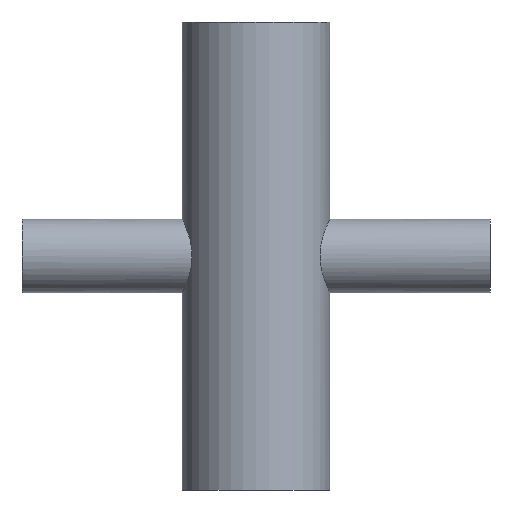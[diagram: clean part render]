
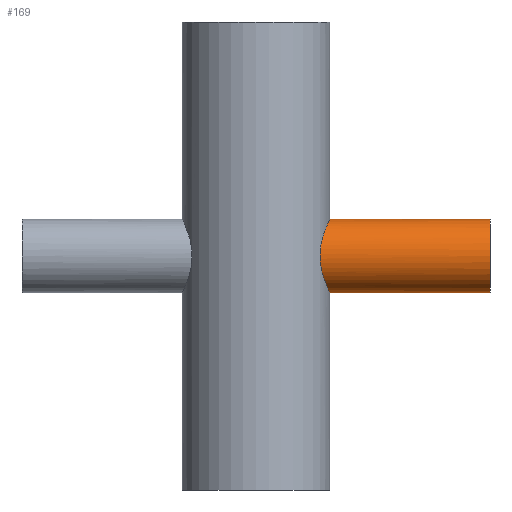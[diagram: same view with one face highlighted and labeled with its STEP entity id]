
A CAD part, front view. The second image highlights one B-rep face of the part: STEP entity #169.
In plain terms, the highlighted cylindrical face has radius 9.525 mm (diameter 19.05 mm), a partial arc.
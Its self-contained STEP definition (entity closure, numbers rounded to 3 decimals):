
#3 = CARTESIAN_POINT ( 'NONE',  ( 18.885, -2.517, 9.192 ) ) ;
#7 = VERTEX_POINT ( 'NONE', #650 ) ;
#8 = CARTESIAN_POINT ( 'NONE',  ( 18.796, -3.116, 9.006 ) ) ;
#10 = CARTESIAN_POINT ( 'NONE',  ( 18.924, -2.208, 9.271 ) ) ;
#28 = CARTESIAN_POINT ( 'NONE',  ( -60.325, 0., 9.525 ) ) ;
#31 = CARTESIAN_POINT ( 'NONE',  ( 16.506, -9.51, 0.621 ) ) ;
#33 = LINE ( 'NONE', #508, #654 ) ;
#36 = EDGE_LOOP ( 'NONE', ( #329, #400, #382, #247 ) ) ;
#39 = DIRECTION ( 'NONE',  ( 1., 0., 0. ) ) ;
#43 = B_SPLINE_CURVE_WITH_KNOTS ( 'NONE', 3,
 ( #791, #795, #779, #769, #766, #761, #758, #721, #711, #708, #698, #694, #692, #657, #651, #643, #619, #586, #581, #577, #570, #559, #270, #152, #133, #268, #31, #94, #350, #204, #236, #219, #266, #231, #212, #264, #138, #205, #228, #471, #545, #303, #282, #130, #8, #3, #10, #68, #483, #79 ),
 .UNSPECIFIED., .F., .F.,
 ( 4, 2, 2, 2, 2, 2, 2, 2, 2, 2, 2, 2, 2, 2, 2, 2, 2, 2, 2, 2, 2, 2, 2, 2, 4 ),
 ( 0.03, 0.032, 0.033, 0.034, 0.036, 0.037, 0.038, 0.039, 0.04, 0.042, 0.043, 0.044, 0.045, 0.046, 0.047, 0.048, 0.049, 0.051, 0.052, 0.053, 0.055, 0.057, 0.058, 0.059, 0.061 ),
 .UNSPECIFIED. ) ;
#68 = CARTESIAN_POINT ( 'NONE',  ( 19.018, -1.273, 9.461 ) ) ;
#79 = CARTESIAN_POINT ( 'NONE',  ( 19.05, 0., 9.525 ) ) ;
#94 = CARTESIAN_POINT ( 'NONE',  ( 16.542, -9.447, 1.254 ) ) ;
#128 = LINE ( 'NONE', #28, #284 ) ;
#130 = CARTESIAN_POINT ( 'NONE',  ( 18.745, -3.408, 8.9 ) ) ;
#133 = CARTESIAN_POINT ( 'NONE',  ( 16.498, -9.524, -0.65 ) ) ;
#138 = CARTESIAN_POINT ( 'NONE',  ( 17.489, -7.556, 5.808 ) ) ;
#146 = DIRECTION ( 'NONE',  ( 0., 0., -1. ) ) ;
#152 = CARTESIAN_POINT ( 'NONE',  ( 16.536, -9.46, -1.275 ) ) ;
#169 = ADVANCED_FACE ( 'NONE', ( #563 ), #235, .T. ) ;
#179 = CARTESIAN_POINT ( 'NONE',  ( -60.325, 0., 0. ) ) ;
#204 = CARTESIAN_POINT ( 'NONE',  ( 16.639, -9.277, 2.183 ) ) ;
#205 = CARTESIAN_POINT ( 'NONE',  ( 17.652, -7.165, 6.284 ) ) ;
#212 = CARTESIAN_POINT ( 'NONE',  ( 17.173, -8.255, 4.791 ) ) ;
#219 = CARTESIAN_POINT ( 'NONE',  ( 16.781, -9.017, 3.087 ) ) ;
#228 = CARTESIAN_POINT ( 'NONE',  ( 17.735, -6.959, 6.51 ) ) ;
#231 = CARTESIAN_POINT ( 'NONE',  ( 17.027, -8.548, 4.249 ) ) ;
#235 = CYLINDRICAL_SURFACE ( 'NONE', #517, 9.525 ) ;
#236 = CARTESIAN_POINT ( 'NONE',  ( 16.682, -9.2, 2.487 ) ) ;
#247 = ORIENTED_EDGE ( 'NONE', *, *, #326, .T. ) ;
#264 = CARTESIAN_POINT ( 'NONE',  ( 17.407, -7.741, 5.559 ) ) ;
#266 = CARTESIAN_POINT ( 'NONE',  ( 16.839, -8.909, 3.384 ) ) ;
#268 = CARTESIAN_POINT ( 'NONE',  ( 16.497, -9.526, 0.3 ) ) ;
#270 = CARTESIAN_POINT ( 'NONE',  ( 16.641, -9.273, -2.2 ) ) ;
#282 = CARTESIAN_POINT ( 'NONE',  ( 18.576, -4.265, 8.539 ) ) ;
#284 = VECTOR ( 'NONE', #39, 1000. ) ;
#303 = CARTESIAN_POINT ( 'NONE',  ( 18.44, -4.811, 8.244 ) ) ;
#326 = EDGE_CURVE ( 'NONE', #7, #785, #876, .T. ) ;
#329 = ORIENTED_EDGE ( 'NONE', *, *, #575, .F. ) ;
#335 = EDGE_CURVE ( 'NONE', #887, #7, #33, .T. ) ;
#350 = CARTESIAN_POINT ( 'NONE',  ( 16.569, -9.401, 1.567 ) ) ;
#381 = DIRECTION ( 'NONE',  ( 1., 0., 0. ) ) ;
#382 = ORIENTED_EDGE ( 'NONE', *, *, #335, .T. ) ;
#400 = ORIENTED_EDGE ( 'NONE', *, *, #432, .F. ) ;
#403 = DIRECTION ( 'NONE',  ( -1., 0., 0. ) ) ;
#410 = DIRECTION ( 'NONE',  ( 1., 0., 0. ) ) ;
#432 = EDGE_CURVE ( 'NONE', #887, #488, #43, .T. ) ;
#471 = CARTESIAN_POINT ( 'NONE',  ( 17.98, -6.312, 7.159 ) ) ;
#483 = CARTESIAN_POINT ( 'NONE',  ( 19.05, -0.64, 9.525 ) ) ;
#488 = VERTEX_POINT ( 'NONE', #500 ) ;
#500 = CARTESIAN_POINT ( 'NONE',  ( 19.05, 0., 9.525 ) ) ;
#508 = CARTESIAN_POINT ( 'NONE',  ( -60.325, 0., -9.525 ) ) ;
#517 = AXIS2_PLACEMENT_3D ( 'NONE', #179, #381, #740 ) ;
#545 = CARTESIAN_POINT ( 'NONE',  ( 18.14, -5.841, 7.549 ) ) ;
#559 = CARTESIAN_POINT ( 'NONE',  ( 16.685, -9.194, -2.508 ) ) ;
#563 = FACE_OUTER_BOUND ( 'NONE', #36, .T. ) ;
#570 = CARTESIAN_POINT ( 'NONE',  ( 16.786, -9.009, -3.11 ) ) ;
#575 = EDGE_CURVE ( 'NONE', #488, #785, #128, .T. ) ;
#577 = CARTESIAN_POINT ( 'NONE',  ( 16.843, -8.902, -3.402 ) ) ;
#581 = CARTESIAN_POINT ( 'NONE',  ( 17.029, -8.543, -4.257 ) ) ;
#586 = CARTESIAN_POINT ( 'NONE',  ( 17.174, -8.252, -4.797 ) ) ;
#619 = CARTESIAN_POINT ( 'NONE',  ( 17.41, -7.736, -5.565 ) ) ;
#643 = CARTESIAN_POINT ( 'NONE',  ( 17.491, -7.551, -5.814 ) ) ;
#650 = CARTESIAN_POINT ( 'NONE',  ( 60.325, 0., -9.525 ) ) ;
#651 = CARTESIAN_POINT ( 'NONE',  ( 17.654, -7.161, -6.288 ) ) ;
#654 = VECTOR ( 'NONE', #410, 1000. ) ;
#657 = CARTESIAN_POINT ( 'NONE',  ( 17.736, -6.956, -6.514 ) ) ;
#692 = CARTESIAN_POINT ( 'NONE',  ( 17.899, -6.525, -6.946 ) ) ;
#694 = CARTESIAN_POINT ( 'NONE',  ( 17.98, -6.298, -7.152 ) ) ;
#698 = CARTESIAN_POINT ( 'NONE',  ( 18.139, -5.825, -7.543 ) ) ;
#708 = CARTESIAN_POINT ( 'NONE',  ( 18.218, -5.575, -7.729 ) ) ;
#711 = CARTESIAN_POINT ( 'NONE',  ( 18.442, -4.805, -8.248 ) ) ;
#721 = CARTESIAN_POINT ( 'NONE',  ( 18.577, -4.261, -8.541 ) ) ;
#740 = DIRECTION ( 'NONE',  ( 0., 0., -1. ) ) ;
#758 = CARTESIAN_POINT ( 'NONE',  ( 18.747, -3.399, -8.903 ) ) ;
#761 = CARTESIAN_POINT ( 'NONE',  ( 18.798, -3.102, -9.011 ) ) ;
#766 = CARTESIAN_POINT ( 'NONE',  ( 18.888, -2.498, -9.197 ) ) ;
#769 = CARTESIAN_POINT ( 'NONE',  ( 18.926, -2.193, -9.274 ) ) ;
#776 = CARTESIAN_POINT ( 'NONE',  ( 60.325, 0., 9.525 ) ) ;
#779 = CARTESIAN_POINT ( 'NONE',  ( 19.018, -1.269, -9.461 ) ) ;
#785 = VERTEX_POINT ( 'NONE', #776 ) ;
#791 = CARTESIAN_POINT ( 'NONE',  ( 19.05, 0., -9.525 ) ) ;
#795 = CARTESIAN_POINT ( 'NONE',  ( 19.05, -0.641, -9.525 ) ) ;
#838 = CARTESIAN_POINT ( 'NONE',  ( 60.325, 0., 0. ) ) ;
#846 = AXIS2_PLACEMENT_3D ( 'NONE', #838, #403, #146 ) ;
#851 = CARTESIAN_POINT ( 'NONE',  ( 19.05, 0., -9.525 ) ) ;
#876 = CIRCLE ( 'NONE', #846, 9.525 ) ;
#887 = VERTEX_POINT ( 'NONE', #851 ) ;
